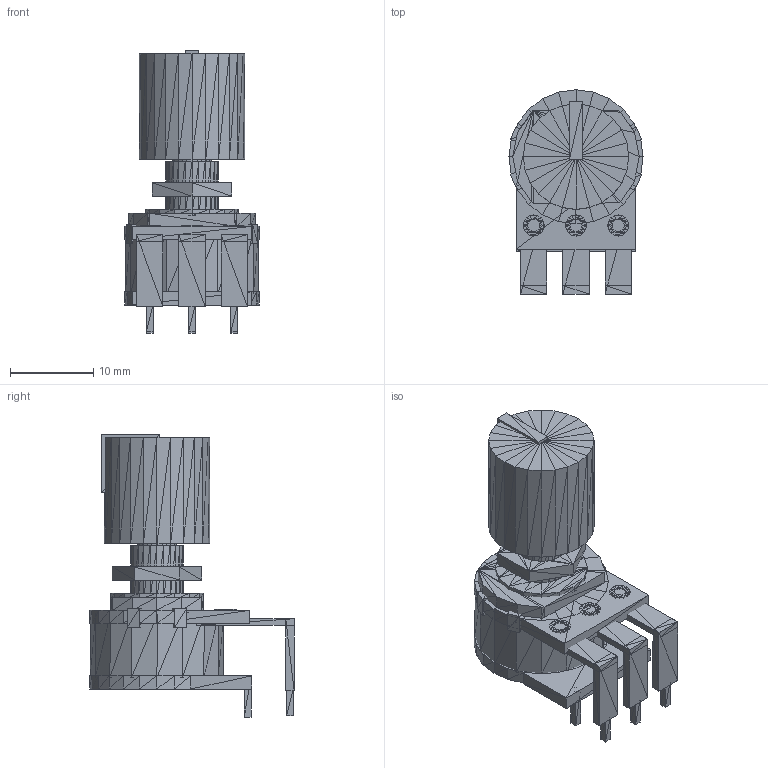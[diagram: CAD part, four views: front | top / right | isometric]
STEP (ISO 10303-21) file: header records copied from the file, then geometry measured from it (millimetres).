
FILE_DESCRIPTION(('HOOPS Exchange Step'),'2;1');
FILE_NAME('C:\Users\paulw\AppData\Local\Temp\Alibre Design\27.0.1.27039\export-524FE056-B08F-4310-A618-67B54BCFF607.stp','2025-08-21T17:24:22+17:00',('paulw'),('Alibre'),'HOOPS Exchange 2023.0','Alibre','Unknown authorisation');
FILE_SCHEMA( ('AP242_MANAGED_MODEL_BASED_3D_ENGINEERING_MIM_LF {1 0 10303 442 1 1 4 }') );
Length unit declared in the file: inch
Products named in the file (32): PMTR16MMST_2; PMTR16MMST_3; PMTR16MMST_4; PMTR16MMST_5; PMTR16MMST_6; PMTR16MMST_7; PMTR16MMST_8; PMTR16MMST_9; PMTR16MMST_10; PMTR16MMST_11; PMTR16MMST_12; PMTR16MMST_13; PMTR16MMST_14; PMTR16MMST_15; PMTR16MMST_16; PMTR16MMST_17; PMTR16MMST_18; PMTR16MMST_19; PMTR16MMST_20; PMTR16MMST_21; PMTR16MMST_22; PMTR16MMST_23; PMTR16MMST_24; PMTR16MMST_25; PMTR16MMST_26; PMTR16MMST_27; PMTR16MMST_28; PMTR16MMST_29; PMTR16MMST_30; PMTR16MMST_31; PMTR16MMST_32; PMTR16MMST
Assembly tree (31 placements, depth 2):
  PMTR16MMST
    PMTR16MMST_2
    PMTR16MMST_3
    PMTR16MMST_4
    PMTR16MMST_5
    PMTR16MMST_6
    PMTR16MMST_7
    PMTR16MMST_8
    PMTR16MMST_9
    PMTR16MMST_10
    PMTR16MMST_11
    PMTR16MMST_12
    PMTR16MMST_13
    PMTR16MMST_14
    PMTR16MMST_15
    PMTR16MMST_16
    PMTR16MMST_17
    PMTR16MMST_18
    PMTR16MMST_19
    PMTR16MMST_20
    PMTR16MMST_21
    PMTR16MMST_22
    PMTR16MMST_23
    PMTR16MMST_24
    PMTR16MMST_25
    PMTR16MMST_26
    PMTR16MMST_27
    PMTR16MMST_28
    PMTR16MMST_29
    PMTR16MMST_30
    PMTR16MMST_31
    PMTR16MMST_32
Bounding box: 16.13 x 24.58 x 33.96 mm (x, y, z)
Surface area: 10704.1 mm2
Topology: 3 solids, 2919 shells, 2952 faces, 3969 edges, 2911 vertices
Faces by surface type: plane 2952
Entity records: 61765 total; most frequent: DIRECTION 10001, CARTESIAN_POINT 9896, ORIENTED_EDGE 8856, VECTOR 3969, LINE 3969, EDGE_CURVE 3969, AXIS2_PLACEMENT_3D 3016, PLANE 2952
